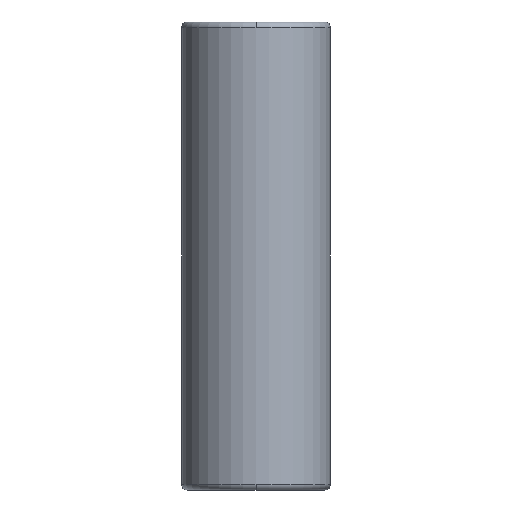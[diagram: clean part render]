
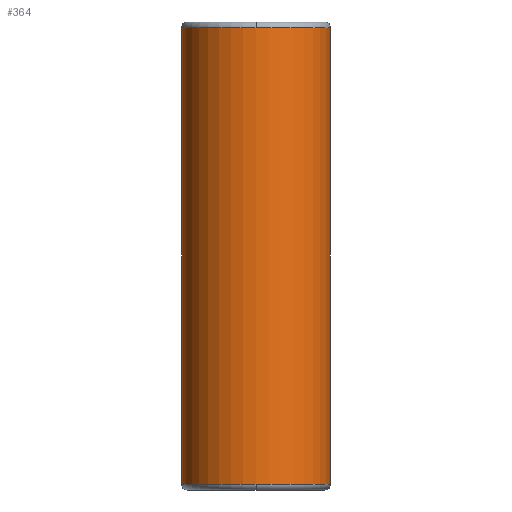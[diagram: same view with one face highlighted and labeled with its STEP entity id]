
A CAD part, front view. The second image highlights one B-rep face of the part: STEP entity #364.
In plain terms, the highlighted cylindrical face has radius 26.993 mm (diameter 53.986 mm), a partial arc.
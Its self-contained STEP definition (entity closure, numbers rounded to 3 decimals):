
#269=CARTESIAN_POINT('',(0.0,-26.993,168.0));
#270=VERTEX_POINT('',#269);
#296=CARTESIAN_POINT('',(-26.993,0.,168.0));
#297=VERTEX_POINT('',#296);
#305=CARTESIAN_POINT('',(0.0,0.,168.0));
#306=DIRECTION('',(0.0,0.0,1.0));
#307=DIRECTION('',(1.0,0.0,0.0));
#308=AXIS2_PLACEMENT_3D('',#305,#306,#307);
#309=CIRCLE('',#308,26.993);
#310=EDGE_CURVE('',#297,#270,#309,.T.);
#315=CARTESIAN_POINT('',(0.0,0.,85.0));
#316=DIRECTION('',(0.0,0.,1.0));
#317=DIRECTION('',(1.0,0.0,0.0));
#318=AXIS2_PLACEMENT_3D('',#315,#316,#317);
#319=CYLINDRICAL_SURFACE('',#318,26.993);
#320=CARTESIAN_POINT('',(26.993,0.,168.0));
#321=VERTEX_POINT('',#320);
#322=CARTESIAN_POINT('',(26.993,0.,2.));
#323=VERTEX_POINT('',#322);
#324=CARTESIAN_POINT('',(26.993,0.,168.0));
#325=DIRECTION('',(0.0,0.0,-1.0));
#326=VECTOR('',#325,166.0);
#327=LINE('',#324,#326);
#328=EDGE_CURVE('',#321,#323,#327,.T.);
#329=ORIENTED_EDGE('',*,*,#328,.F.);
#330=CARTESIAN_POINT('',(0.0,0.,168.0));
#331=DIRECTION('',(0.0,0.0,1.0));
#332=DIRECTION('',(1.0,0.0,0.0));
#333=AXIS2_PLACEMENT_3D('',#330,#331,#332);
#334=CIRCLE('',#333,26.993);
#335=EDGE_CURVE('',#270,#321,#334,.T.);
#336=ORIENTED_EDGE('',*,*,#335,.F.);
#337=ORIENTED_EDGE('',*,*,#310,.F.);
#338=CARTESIAN_POINT('',(-26.993,0.,2.0));
#339=VERTEX_POINT('',#338);
#340=CARTESIAN_POINT('',(-26.993,0.,168.0));
#341=DIRECTION('',(0.0,0.0,-1.0));
#342=VECTOR('',#341,166.0);
#343=LINE('',#340,#342);
#344=EDGE_CURVE('',#297,#339,#343,.T.);
#345=ORIENTED_EDGE('',*,*,#344,.T.);
#346=CARTESIAN_POINT('',(0.0,-26.993,2.));
#347=VERTEX_POINT('',#346);
#348=CARTESIAN_POINT('',(0.0,0.,2.0));
#349=DIRECTION('',(0.0,0.0,1.0));
#350=DIRECTION('',(1.0,0.0,0.0));
#351=AXIS2_PLACEMENT_3D('',#348,#349,#350);
#352=CIRCLE('',#351,26.993);
#353=EDGE_CURVE('',#339,#347,#352,.T.);
#354=ORIENTED_EDGE('',*,*,#353,.T.);
#355=CARTESIAN_POINT('',(0.0,0.,2.0));
#356=DIRECTION('',(0.0,0.0,1.0));
#357=DIRECTION('',(1.0,0.0,0.0));
#358=AXIS2_PLACEMENT_3D('',#355,#356,#357);
#359=CIRCLE('',#358,26.993);
#360=EDGE_CURVE('',#347,#323,#359,.T.);
#361=ORIENTED_EDGE('',*,*,#360,.T.);
#362=EDGE_LOOP('',(#329,#336,#337,#345,#354,#361));
#363=FACE_OUTER_BOUND('',#362,.T.);
#364=ADVANCED_FACE('',(#363),#319,.T.);
